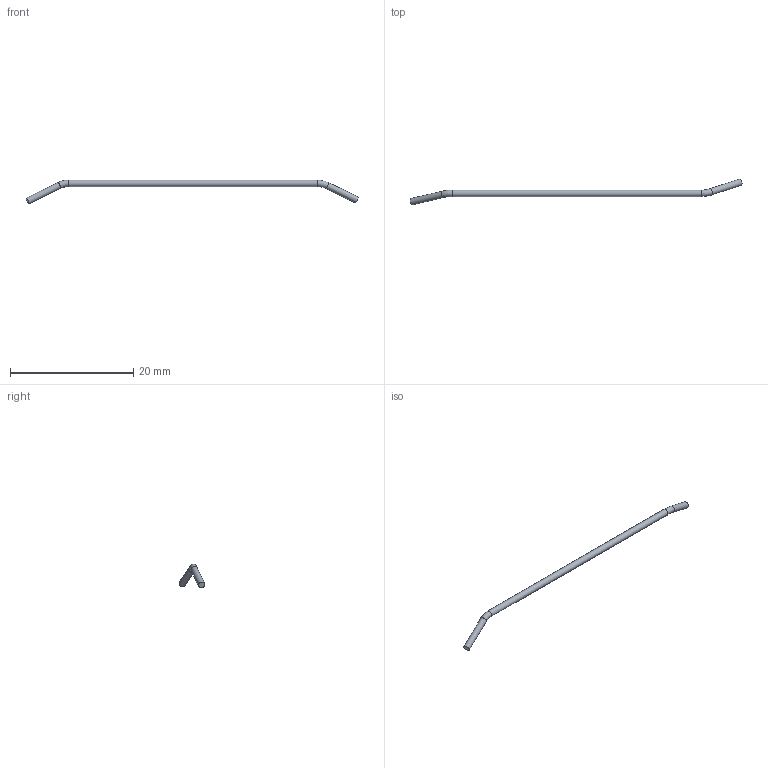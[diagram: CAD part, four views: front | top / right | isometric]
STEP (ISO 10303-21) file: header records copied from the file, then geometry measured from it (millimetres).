
FILE_DESCRIPTION(('Open CASCADE Model'),'2;1');
FILE_NAME('Open CASCADE Shape Model','2026-09-15T14:26:47',('Author'),( 'Open CASCADE'),'Open CASCADE STEP processor 7.7','Open CASCADE 7.7' ,'Unknown');
FILE_SCHEMA(('AUTOMOTIVE_DESIGN { 1 0 10303 214 1 1 1 1 }'));
Length unit declared in the file: millimetre
Products named in the file (1): J9_COMMON_LINK_2_OD1p05_R3
Bounding box: 53.81 x 4.17 x 3.85 mm (x, y, z)
Volume: 47.5 mm3; surface area: 182.8 mm2
Topology: 1 solids, 1 shells, 7 faces, 11 edges, 6 vertices
Faces by surface type: cylinder 3, torus 2, plane 2
Full cylindrical faces by diameter (mm): 1.05 x3
Entity records: 305 total; most frequent: CARTESIAN_POINT 56, DIRECTION 48, ORIENTED_EDGE 22, PCURVE 22, DEFINITIONAL_REPRESENTATION 22, AXIS2_PLACEMENT_3D 16, LINE 14, VECTOR 14
